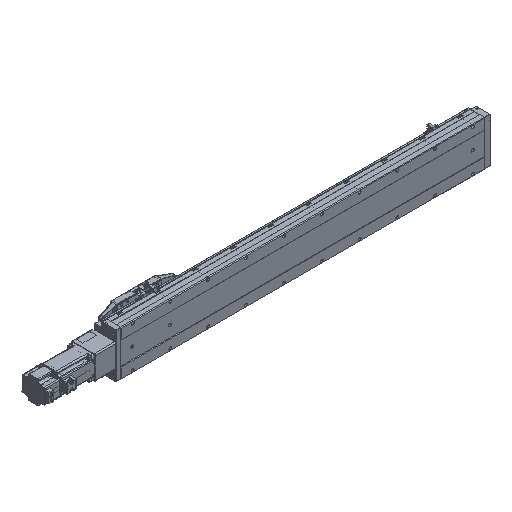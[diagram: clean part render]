
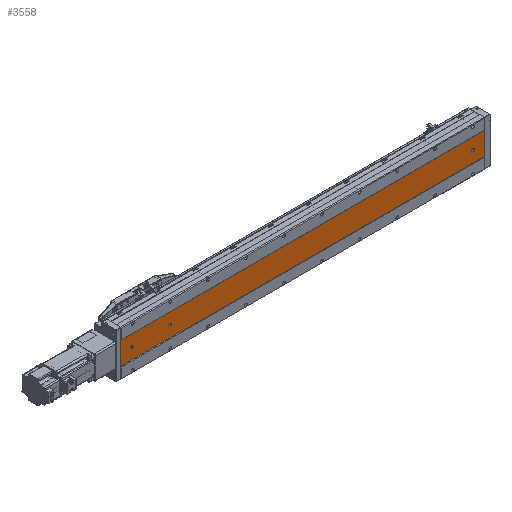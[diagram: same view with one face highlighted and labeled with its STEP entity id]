
A CAD part, isometric view. The second image highlights one B-rep face of the part: STEP entity #3558.
In plain terms, the highlighted planar face has unit normal (0, -1, 0).
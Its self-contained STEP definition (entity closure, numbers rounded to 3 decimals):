
#2527 = ORIENTED_EDGE ( 'NONE', *, *, #24628, .T. ) ;
#2580 = ORIENTED_EDGE ( 'NONE', *, *, #62623, .T. ) ;
#2644 = DIRECTION ( 'NONE',  ( 0., 0., 1. ) ) ;
#2694 = ORIENTED_EDGE ( 'NONE', *, *, #60351, .T. ) ;
#3149 = CARTESIAN_POINT ( 'NONE',  ( -39.892, -52.848, 827.5 ) ) ;
#3295 = FACE_OUTER_BOUND ( 'NONE', #31294, .T. ) ;
#3377 = ORIENTED_EDGE ( 'NONE', *, *, #69885, .T. ) ;
#3512 = AXIS2_PLACEMENT_3D ( 'NONE', #31806, #90526, #17728 ) ;
#3558 = ADVANCED_FACE ( 'NONE', ( #27991, #20193, #90117, #3295 ), #17423, .F. ) ;
#3724 = DIRECTION ( 'NONE',  ( 0., 0., 1. ) ) ;
#4058 = CARTESIAN_POINT ( 'NONE',  ( -36.392, -52.848, 30. ) ) ;
#5750 = VECTOR ( 'NONE', #34706, 1000. ) ;
#6794 = EDGE_CURVE ( 'NONE', #16994, #38448, #15090, .T. ) ;
#6833 = CARTESIAN_POINT ( 'NONE',  ( -43.392, -52.848, 30. ) ) ;
#7042 = CARTESIAN_POINT ( 'NONE',  ( -39.892, -52.848, 831. ) ) ;
#10023 = AXIS2_PLACEMENT_3D ( 'NONE', #10704, #10403, #75555 ) ;
#10403 = DIRECTION ( 'NONE',  ( 0., 1., 0. ) ) ;
#10704 = CARTESIAN_POINT ( 'NONE',  ( -39.892, -52.848, 931. ) ) ;
#11668 = VERTEX_POINT ( 'NONE', #4058 ) ;
#11819 = VERTEX_POINT ( 'NONE', #56539 ) ;
#13563 = EDGE_CURVE ( 'NONE', #26280, #53246, #86049, .T. ) ;
#13923 = VECTOR ( 'NONE', #76440, 1000. ) ;
#14220 = CARTESIAN_POINT ( 'NONE',  ( -69.892, -52.848, 961. ) ) ;
#15090 = CIRCLE ( 'NONE', #58623, 3.5 ) ;
#15170 = AXIS2_PLACEMENT_3D ( 'NONE', #64795, #72014, #79298 ) ;
#15195 = EDGE_CURVE ( 'NONE', #77612, #56599, #20356, .T. ) ;
#15238 = CARTESIAN_POINT ( 'NONE',  ( -39.892, -52.848, 30. ) ) ;
#16994 = VERTEX_POINT ( 'NONE', #66603 ) ;
#17423 = PLANE ( 'NONE',  #3512 ) ;
#17728 = DIRECTION ( 'NONE',  ( 0., 0., 1. ) ) ;
#20193 = FACE_BOUND ( 'NONE', #32452, .T. ) ;
#20356 = LINE ( 'NONE', #34081, #5750 ) ;
#20653 = ORIENTED_EDGE ( 'NONE', *, *, #66059, .T. ) ;
#22228 = AXIS2_PLACEMENT_3D ( 'NONE', #32281, #89765, #3724 ) ;
#22265 = LINE ( 'NONE', #72618, #89937 ) ;
#23973 = LINE ( 'NONE', #55862, #13923 ) ;
#24126 = EDGE_CURVE ( 'NONE', #38448, #16994, #81120, .T. ) ;
#24628 = EDGE_CURVE ( 'NONE', #66611, #11819, #57285, .T. ) ;
#25221 = EDGE_CURVE ( 'NONE', #56419, #60829, #22265, .T. ) ;
#25342 = EDGE_CURVE ( 'NONE', #60829, #56599, #84321, .T. ) ;
#26280 = VERTEX_POINT ( 'NONE', #76342 ) ;
#27734 = DIRECTION ( 'NONE',  ( 0., 0., 1. ) ) ;
#27991 = FACE_BOUND ( 'NONE', #28434, .T. ) ;
#28434 = EDGE_LOOP ( 'NONE', ( #48329, #2527, #2580, #3377, #2694 ) ) ;
#28765 = VECTOR ( 'NONE', #63835, 1000. ) ;
#31188 = DIRECTION ( 'NONE',  ( 0., 1., 0. ) ) ;
#31294 = EDGE_LOOP ( 'NONE', ( #31296, #68797, #63802, #82919 ) ) ;
#31296 = ORIENTED_EDGE ( 'NONE', *, *, #15195, .T. ) ;
#31389 = CARTESIAN_POINT ( 'NONE',  ( -9.892, -52.848, 961. ) ) ;
#31806 = CARTESIAN_POINT ( 'NONE',  ( -69.892, -52.848, 961. ) ) ;
#32080 = LINE ( 'NONE', #70392, #28765 ) ;
#32281 = CARTESIAN_POINT ( 'NONE',  ( -39.892, -52.848, 931. ) ) ;
#32452 = EDGE_LOOP ( 'NONE', ( #70111, #80657 ) ) ;
#34081 = CARTESIAN_POINT ( 'NONE',  ( -69.892, -52.848, 0. ) ) ;
#34706 = DIRECTION ( 'NONE',  ( 1., 0., 0. ) ) ;
#35660 = EDGE_CURVE ( 'NONE', #56047, #66611, #32080, .T. ) ;
#36255 = DIRECTION ( 'NONE',  ( 0., 0., 1. ) ) ;
#36847 = CARTESIAN_POINT ( 'NONE',  ( -9.892, -52.848, 0. ) ) ;
#37896 = CIRCLE ( 'NONE', #15170, 3.5 ) ;
#38403 = AXIS2_PLACEMENT_3D ( 'NONE', #7042, #70912, #27734 ) ;
#38445 = CARTESIAN_POINT ( 'NONE',  ( -39.892, -52.848, 831. ) ) ;
#38448 = VERTEX_POINT ( 'NONE', #3149 ) ;
#42770 = AXIS2_PLACEMENT_3D ( 'NONE', #15238, #72188, #36255 ) ;
#43494 = ORIENTED_EDGE ( 'NONE', *, *, #13563, .T. ) ;
#44592 = DIRECTION ( 'NONE',  ( 0., 1., 0. ) ) ;
#48329 = ORIENTED_EDGE ( 'NONE', *, *, #35660, .T. ) ;
#53246 = VERTEX_POINT ( 'NONE', #80808 ) ;
#54096 = AXIS2_PLACEMENT_3D ( 'NONE', #87941, #44592, #58822 ) ;
#55105 = CARTESIAN_POINT ( 'NONE',  ( -69.892, -52.848, 961. ) ) ;
#55500 = CIRCLE ( 'NONE', #10023, 3.5 ) ;
#55862 = CARTESIAN_POINT ( 'NONE',  ( -36.392, -52.848, 961. ) ) ;
#56047 = VERTEX_POINT ( 'NONE', #6833 ) ;
#56419 = VERTEX_POINT ( 'NONE', #55105 ) ;
#56539 = CARTESIAN_POINT ( 'NONE',  ( -36.392, -52.848, 32. ) ) ;
#56599 = VERTEX_POINT ( 'NONE', #36847 ) ;
#57285 = CIRCLE ( 'NONE', #54096, 3.5 ) ;
#58623 = AXIS2_PLACEMENT_3D ( 'NONE', #38445, #31188, #2644 ) ;
#58822 = DIRECTION ( 'NONE',  ( 0., 0., 1. ) ) ;
#59335 = DIRECTION ( 'NONE',  ( 1., 0., 0. ) ) ;
#60351 = EDGE_CURVE ( 'NONE', #60474, #56047, #92211, .T. ) ;
#60474 = VERTEX_POINT ( 'NONE', #62709 ) ;
#60829 = VERTEX_POINT ( 'NONE', #31389 ) ;
#62039 = EDGE_CURVE ( 'NONE', #56419, #77612, #69128, .T. ) ;
#62386 = VECTOR ( 'NONE', #84803, 1000. ) ;
#62623 = EDGE_CURVE ( 'NONE', #11819, #11668, #23973, .T. ) ;
#62709 = CARTESIAN_POINT ( 'NONE',  ( -39.892, -52.848, 26.5 ) ) ;
#63802 = ORIENTED_EDGE ( 'NONE', *, *, #25221, .F. ) ;
#63835 = DIRECTION ( 'NONE',  ( 0., 0., 1. ) ) ;
#64795 = CARTESIAN_POINT ( 'NONE',  ( -39.892, -52.848, 30. ) ) ;
#66059 = EDGE_CURVE ( 'NONE', #53246, #26280, #55500, .T. ) ;
#66603 = CARTESIAN_POINT ( 'NONE',  ( -39.892, -52.848, 834.5 ) ) ;
#66611 = VERTEX_POINT ( 'NONE', #68691 ) ;
#68691 = CARTESIAN_POINT ( 'NONE',  ( -43.392, -52.848, 32. ) ) ;
#68797 = ORIENTED_EDGE ( 'NONE', *, *, #25342, .F. ) ;
#69128 = LINE ( 'NONE', #14220, #62386 ) ;
#69885 = EDGE_CURVE ( 'NONE', #11668, #60474, #37896, .T. ) ;
#70111 = ORIENTED_EDGE ( 'NONE', *, *, #24126, .T. ) ;
#70392 = CARTESIAN_POINT ( 'NONE',  ( -43.392, -52.848, 961. ) ) ;
#70711 = CARTESIAN_POINT ( 'NONE',  ( -69.892, -52.848, 0. ) ) ;
#70912 = DIRECTION ( 'NONE',  ( 0., 1., 0. ) ) ;
#72014 = DIRECTION ( 'NONE',  ( 0., 1., 0. ) ) ;
#72188 = DIRECTION ( 'NONE',  ( 0., 1., 0. ) ) ;
#72618 = CARTESIAN_POINT ( 'NONE',  ( -69.892, -52.848, 961. ) ) ;
#74791 = DIRECTION ( 'NONE',  ( 0., 0., -1. ) ) ;
#75555 = DIRECTION ( 'NONE',  ( 0., 0., 1. ) ) ;
#76342 = CARTESIAN_POINT ( 'NONE',  ( -39.892, -52.848, 927.5 ) ) ;
#76440 = DIRECTION ( 'NONE',  ( 0., 0., -1. ) ) ;
#77612 = VERTEX_POINT ( 'NONE', #70711 ) ;
#79298 = DIRECTION ( 'NONE',  ( 0., 0., 1. ) ) ;
#80657 = ORIENTED_EDGE ( 'NONE', *, *, #6794, .T. ) ;
#80808 = CARTESIAN_POINT ( 'NONE',  ( -39.892, -52.848, 934.5 ) ) ;
#81120 = CIRCLE ( 'NONE', #38403, 3.5 ) ;
#82919 = ORIENTED_EDGE ( 'NONE', *, *, #62039, .T. ) ;
#83123 = VECTOR ( 'NONE', #74791, 1000. ) ;
#84321 = LINE ( 'NONE', #87518, #83123 ) ;
#84803 = DIRECTION ( 'NONE',  ( 0., 0., -1. ) ) ;
#86049 = CIRCLE ( 'NONE', #22228, 3.5 ) ;
#87518 = CARTESIAN_POINT ( 'NONE',  ( -9.892, -52.848, 961. ) ) ;
#87941 = CARTESIAN_POINT ( 'NONE',  ( -39.892, -52.848, 32. ) ) ;
#89765 = DIRECTION ( 'NONE',  ( 0., 1., 0. ) ) ;
#89937 = VECTOR ( 'NONE', #59335, 1000. ) ;
#90117 = FACE_BOUND ( 'NONE', #93496, .T. ) ;
#90526 = DIRECTION ( 'NONE',  ( 0., 1., 0. ) ) ;
#92211 = CIRCLE ( 'NONE', #42770, 3.5 ) ;
#93496 = EDGE_LOOP ( 'NONE', ( #43494, #20653 ) ) ;
